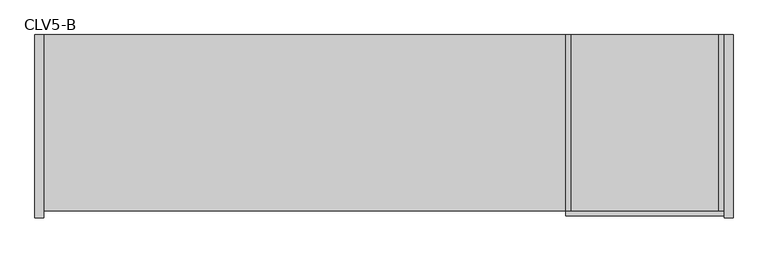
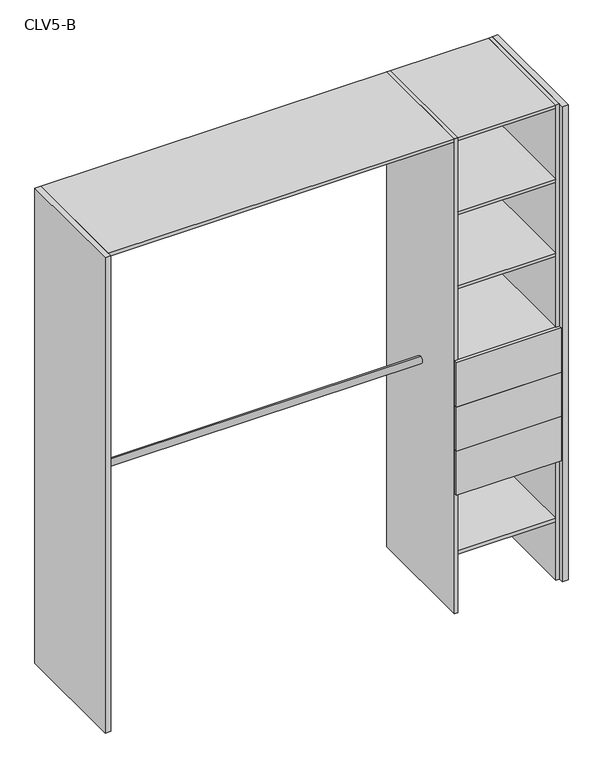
"""IFC4 building model written with IfcOpenShell, lengths in millimetres: furniture geometry, Closet 1estantes-1tubos_2 laterales : CLV5-B."""

from ifc_helpers import new_model, si_unit, point, frame, frame_2d, origin, origin_with_axes, place, context, project, spatial, polyline, circle_curve, trimmed, segment, composite_curve, outline, extrude, source, transform, mapped, element, save


def clv5_b_8e665745(model_context):
    return source(origin(), model_context, "Body", "SweptSolid", [
        extrude(outline(polyline([(-1706.2460152, 80.0), (-1731.2460152, 80.0), (-1731.2460152, 600.0), (-1706.2460152, 600.0), (-1706.2460152, 80.0)])), origin_with_axes(), (0.0, 0.0, 1.0), 2150.0),
        extrude(outline(polyline([(250.0, 80.0), (225.0, 80.0), (225.0, 600.0), (250.0, 600.0), (250.0, 80.0)])), origin_with_axes(), (0.0, 0.0, 1.0), 2150.0),
        extrude(outline(polyline([(225.0, 100.0), (210.0, 100.0), (210.0, 600.0), (225.0, 600.0), (225.0, 100.0)])), origin_with_axes(), (0.0, 0.0, 1.0), 2150.0),
        extrude(outline(polyline([(-210.0, 100.0), (-225.0, 100.0), (-225.0, 600.0), (-210.0, 600.0), (-210.0, 100.0)])), origin_with_axes(), (0.0, 0.0, 1.0), 2150.0),
        extrude(outline(polyline([(225.0, 100.0), (225.0, 85.0), (-225.0, 85.0), (-225.0, 100.0), (225.0, 100.0)])), frame((0.0, 0.0, 945.0), z_axis=(0.0, 0.0, 1.0), x_axis=(1.0, 0.0, 0.0)), (0.0, 0.0, 1.0), 200.0),
        extrude(outline(polyline([(225.0, 100.0), (225.0, 85.0), (-225.0, 85.0), (-225.0, 100.0), (225.0, 100.0)])), frame((0.0, 0.0, 745.0), z_axis=(0.0, 0.0, 1.0), x_axis=(1.0, 0.0, 0.0)), (0.0, 0.0, 1.0), 200.0),
        extrude(outline(polyline([(225.0, 100.0), (225.0, 85.0), (-225.0, 85.0), (-225.0, 100.0), (225.0, 100.0)])), frame((0.0, 0.0, 545.0), z_axis=(0.0, 0.0, 1.0), x_axis=(1.0, 0.0, 0.0)), (0.0, 0.0, 1.0), 200.0),
        extrude(outline(polyline([(210.0, 100.0), (-210.0, 100.0), (-210.0, 600.0), (210.0, 600.0), (210.0, 100.0)])), frame((0.0, 0.0, 1130.0), z_axis=(0.0, 0.0, 1.0), x_axis=(1.0, 0.0, 0.0)), (0.0, 0.0, 1.0), 15.0),
        extrude(outline(composite_curve([segment(trimmed(circle_curve(frame_2d((350.0, 1000.0)), 15.0), [point((350.0, 1015.0))], [point((350.0, 985.0))], False, "CARTESIAN"), True, "CONTINUOUS"), segment(trimmed(circle_curve(frame_2d((350.0, 1000.0)), 15.0), [point((350.0, 985.0))], [point((350.0, 1015.0))], False, "CARTESIAN"), True, "CONTINUOUS")], self_intersect=False)), frame((-1706.2460152, 0.0, 0.0), z_axis=(1.0, 0.0, 0.0), x_axis=(0.0, 1.0, 0.0)), (0.0, 0.0, 1.0), 1481.2460152),
        extrude(outline(composite_curve([segment(trimmed(circle_curve(frame_2d((350.0, 2000.0)), 15.0), [point((350.0, 2015.0))], [point((350.0, 1985.0))], False, "CARTESIAN"), True, "CONTINUOUS"), segment(trimmed(circle_curve(frame_2d((350.0, 2000.0)), 15.0), [point((350.0, 1985.0))], [point((350.0, 2015.0))], False, "CARTESIAN"), True, "CONTINUOUS")], self_intersect=False)), frame((-1706.2460152, 0.0, 0.0), z_axis=(1.0, 0.0, 0.0), x_axis=(0.0, 1.0, 0.0)), (0.0, 0.0, 1.0), 1481.2460152),
        extrude(outline(polyline([(210.0, 100.0), (-210.0, 100.0), (-210.0, 600.0), (210.0, 600.0), (210.0, 100.0)])), frame((0.0, 0.0, 265.0), z_axis=(0.0, 0.0, 1.0), x_axis=(1.0, 0.0, 0.0)), (0.0, 0.0, 1.0), 15.0),
        extrude(outline(polyline([(210.0, 100.0), (-210.0, 100.0), (-210.0, 600.0), (210.0, 600.0), (210.0, 100.0)])), frame((0.0, 0.0, 545.0), z_axis=(0.0, 0.0, 1.0), x_axis=(1.0, 0.0, 0.0)), (0.0, 0.0, 1.0), 15.0),
        extrude(outline(polyline([(210.0, 100.0), (-210.0, 100.0), (-210.0, 600.0), (210.0, 600.0), (210.0, 100.0)])), frame((0.0, 0.0, 1465.0), z_axis=(0.0, 0.0, 1.0), x_axis=(1.0, 0.0, 0.0)), (0.0, 0.0, 1.0), 15.0),
        extrude(outline(polyline([(210.0, 100.0), (-210.0, 100.0), (-210.0, 600.0), (210.0, 600.0), (210.0, 100.0)])), frame((0.0, 0.0, 1800.0), z_axis=(0.0, 0.0, 1.0), x_axis=(1.0, 0.0, 0.0)), (0.0, 0.0, 1.0), 15.0),
        extrude(outline(polyline([(-210.0, 100.0), (-1706.2460152, 100.0), (-1706.2460152, 600.0), (-210.0, 600.0), (-210.0, 100.0)])), frame((0.0, 0.0, 2135.0), z_axis=(0.0, 0.0, 1.0), x_axis=(1.0, 0.0, 0.0)), (0.0, 0.0, 1.0), 15.0),
        extrude(outline(polyline([(210.0, 100.0), (-210.0, 100.0), (-210.0, 600.0), (210.0, 600.0), (210.0, 100.0)])), frame((0.0, 0.0, 2135.0), z_axis=(0.0, 0.0, 1.0), x_axis=(1.0, 0.0, 0.0)), (0.0, 0.0, 1.0), 15.0),
    ])


if __name__ == "__main__":
    model = new_model("IFC4")
    model_context = context("Model", 3, world=origin())
    ifc_project = project(units=[si_unit("LENGTHUNIT", "METRE", prefix="MILLI")], contexts=[model_context])
    site = spatial("IfcSite", under=ifc_project)
    building = spatial("IfcBuilding", under=site)
    placement = place(None, origin())
    clv5_b_shape = clv5_b_8e665745(model_context)
    element("IfcFurniture", 1, ObjectType="Closet 1estantes-1tubos_2 laterales : CLV5-B", at=placement, inside=building, context=model_context, shape_type="MappedRepresentation", body=[
        mapped(clv5_b_shape, transform((0.0, 0.0, 0.0), x_axis=(1.0, 0.0, 0.0), y_axis=(0.0, 1.0, 0.0), z_axis=(0.0, 0.0, 1.0))),
    ])
    save(model, "model.ifc")
